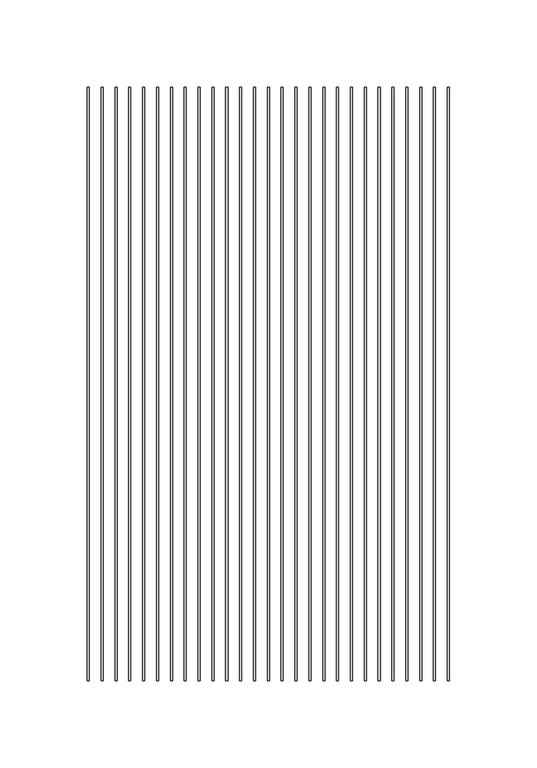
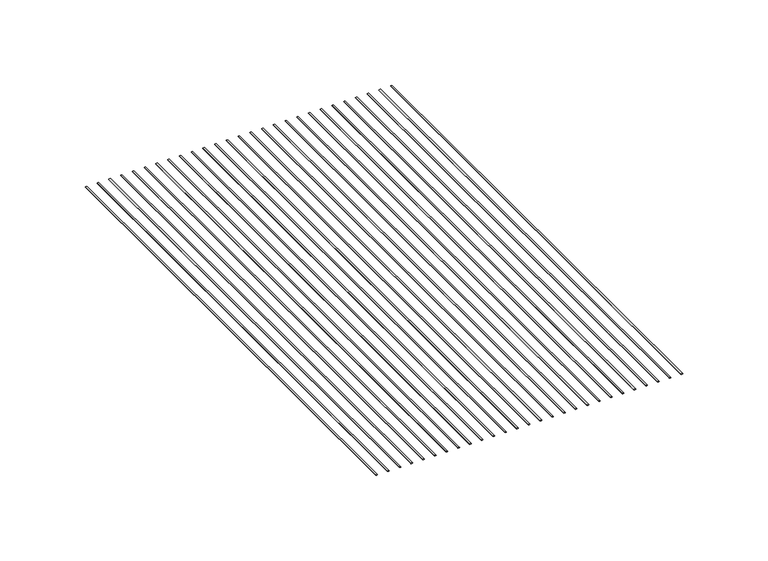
"""IFC4 building model written with IfcOpenShell, lengths in millimetres: proxy geometry, CRAi Generic Model Mesh Piece Face Based : Wider Mesh."""

from ifc_helpers import new_model, si_unit, point, frame, origin, place, context, project, spatial, ellipse_curve, trimmed, source, transform, mapped, element, save
from ifc_brep_helpers import plane_surface, extruded_surface, advanced_brep


def generic_models_feffb954(model_context):
    return source(origin(), model_context, "Body", "AdvancedBrep", [
        advanced_brep(
        [(4.9609375, -169.8625, -2.5796875), (6.1515625, -169.8625, -2.5796875), (4.9609375, 169.8625, -2.5796875), (6.1515625, 169.8625, -2.5796875)],
        [
            (0, 1, ellipse_curve(frame((5.55625, -169.8625, -2.5796875), z_axis=(0.0, -1.0, 0.0), x_axis=(1.0, 0.0, 0.0)), 0.5953125, 0.1984375)),
            (1, 0, ellipse_curve(frame((5.55625, -169.8625, -2.5796875), z_axis=(0.0, -1.0, 0.0), x_axis=(1.0, 0.0, 0.0)), 0.5953125, 0.1984375)),
            (2, 3, ellipse_curve(frame((5.55625, 169.8625, -2.5796875), z_axis=(0.0, 1.0, 0.0), x_axis=(1.0, 0.0, 0.0)), 0.5953125, 0.1984375)),
            (3, 2, ellipse_curve(frame((5.55625, 169.8625, -2.5796875), z_axis=(0.0, 1.0, 0.0), x_axis=(1.0, 0.0, 0.0)), 0.5953125, 0.1984375)),
            (0, 2),
            (3, 1),
        ],
        [
            plane_surface(frame((5.55625, -169.8625, -2.5796875), z_axis=(0.0, -1.0, 0.0), x_axis=(0.0, 0.0, 1.0))),
            plane_surface(frame((5.55625, 169.8625, -2.5796875), z_axis=(0.0, 1.0, 0.0), x_axis=(0.0, 0.0, 1.0))),
            extruded_surface(trimmed(ellipse_curve(frame((5.55625, 169.8625, -2.5796875), z_axis=(0.0, -1.0, 0.0), x_axis=(1.0, 0.0, 0.0)), 0.5953125, 0.1984375), [point((4.9609375, 169.8625, -2.5796875))], [point((6.1515625, 169.8625, -2.5796875))], True, "CARTESIAN"), (0.0, -339.725, 0.0), 339.725),
            extruded_surface(trimmed(ellipse_curve(frame((5.55625, 169.8625, -2.5796875), z_axis=(0.0, -1.0, 0.0), x_axis=(1.0, 0.0, 0.0)), 0.5953125, 0.1984375), [point((6.1515625, 169.8625, -2.5796875))], [point((4.9609375, 169.8625, -2.5796875))], True, "CARTESIAN"), (0.0, -339.725, 0.0), 339.725),
        ],
        [
            (0, [[1, 2]]),
            (1, [[3, 4]]),
            (2, [[-1, 5, -4, 6]]),
            (3, [[-2, -6, -3, -5]]),
        ],
    ),
        advanced_brep(
        [(12.8984375, -169.8625, -2.5796875), (14.0890625, -169.8625, -2.5796875), (12.8984375, 169.8625, -2.5796875), (14.0890625, 169.8625, -2.5796875)],
        [
            (0, 1, ellipse_curve(frame((13.49375, -169.8625, -2.5796875), z_axis=(0.0, -1.0, 0.0), x_axis=(1.0, 0.0, 0.0)), 0.5953125, 0.1984375)),
            (1, 0, ellipse_curve(frame((13.49375, -169.8625, -2.5796875), z_axis=(0.0, -1.0, 0.0), x_axis=(1.0, 0.0, 0.0)), 0.5953125, 0.1984375)),
            (2, 3, ellipse_curve(frame((13.49375, 169.8625, -2.5796875), z_axis=(0.0, 1.0, 0.0), x_axis=(1.0, 0.0, 0.0)), 0.5953125, 0.1984375)),
            (3, 2, ellipse_curve(frame((13.49375, 169.8625, -2.5796875), z_axis=(0.0, 1.0, 0.0), x_axis=(1.0, 0.0, 0.0)), 0.5953125, 0.1984375)),
            (0, 2),
            (3, 1),
        ],
        [
            plane_surface(frame((13.49375, -169.8625, -2.5796875), z_axis=(0.0, -1.0, 0.0), x_axis=(0.0, 0.0, 1.0))),
            plane_surface(frame((13.49375, 169.8625, -2.5796875), z_axis=(0.0, 1.0, 0.0), x_axis=(0.0, 0.0, 1.0))),
            extruded_surface(trimmed(ellipse_curve(frame((13.49375, 169.8625, -2.5796875), z_axis=(0.0, -1.0, 0.0), x_axis=(1.0, 0.0, 0.0)), 0.5953125, 0.1984375), [point((12.8984375, 169.8625, -2.5796875))], [point((14.0890625, 169.8625, -2.5796875))], True, "CARTESIAN"), (0.0, -339.725, 0.0), 339.725),
            extruded_surface(trimmed(ellipse_curve(frame((13.49375, 169.8625, -2.5796875), z_axis=(0.0, -1.0, 0.0), x_axis=(1.0, 0.0, 0.0)), 0.5953125, 0.1984375), [point((14.0890625, 169.8625, -2.5796875))], [point((12.8984375, 169.8625, -2.5796875))], True, "CARTESIAN"), (0.0, -339.725, 0.0), 339.725),
        ],
        [
            (0, [[1, 2]]),
            (1, [[3, 4]]),
            (2, [[-1, 5, -4, 6]]),
            (3, [[-2, -6, -3, -5]]),
        ],
    ),
        advanced_brep(
        [(20.8359375, -169.8625, -2.5796875), (22.0265625, -169.8625, -2.5796875), (20.8359375, 169.8625, -2.5796875), (22.0265625, 169.8625, -2.5796875)],
        [
            (0, 1, ellipse_curve(frame((21.43125, -169.8625, -2.5796875), z_axis=(0.0, -1.0, 0.0), x_axis=(1.0, 0.0, 0.0)), 0.5953125, 0.1984375)),
            (1, 0, ellipse_curve(frame((21.43125, -169.8625, -2.5796875), z_axis=(0.0, -1.0, 0.0), x_axis=(1.0, 0.0, 0.0)), 0.5953125, 0.1984375)),
            (2, 3, ellipse_curve(frame((21.43125, 169.8625, -2.5796875), z_axis=(0.0, 1.0, 0.0), x_axis=(1.0, 0.0, 0.0)), 0.5953125, 0.1984375)),
            (3, 2, ellipse_curve(frame((21.43125, 169.8625, -2.5796875), z_axis=(0.0, 1.0, 0.0), x_axis=(1.0, 0.0, 0.0)), 0.5953125, 0.1984375)),
            (0, 2),
            (3, 1),
        ],
        [
            plane_surface(frame((21.43125, -169.8625, -2.5796875), z_axis=(0.0, -1.0, 0.0), x_axis=(0.0, 0.0, 1.0))),
            plane_surface(frame((21.43125, 169.8625, -2.5796875), z_axis=(0.0, 1.0, 0.0), x_axis=(0.0, 0.0, 1.0))),
            extruded_surface(trimmed(ellipse_curve(frame((21.43125, 169.8625, -2.5796875), z_axis=(0.0, -1.0, 0.0), x_axis=(1.0, 0.0, 0.0)), 0.5953125, 0.1984375), [point((20.8359375, 169.8625, -2.5796875))], [point((22.0265625, 169.8625, -2.5796875))], True, "CARTESIAN"), (0.0, -339.725, 0.0), 339.725),
            extruded_surface(trimmed(ellipse_curve(frame((21.43125, 169.8625, -2.5796875), z_axis=(0.0, -1.0, 0.0), x_axis=(1.0, 0.0, 0.0)), 0.5953125, 0.1984375), [point((22.0265625, 169.8625, -2.5796875))], [point((20.8359375, 169.8625, -2.5796875))], True, "CARTESIAN"), (0.0, -339.725, 0.0), 339.725),
        ],
        [
            (0, [[1, 2]]),
            (1, [[3, 4]]),
            (2, [[-1, 5, -4, 6]]),
            (3, [[-2, -6, -3, -5]]),
        ],
    ),
        advanced_brep(
        [(28.7734375, -169.8625, -2.5796875), (29.9640625, -169.8625, -2.5796875), (28.7734375, 169.8625, -2.5796875), (29.9640625, 169.8625, -2.5796875)],
        [
            (0, 1, ellipse_curve(frame((29.36875, -169.8625, -2.5796875), z_axis=(0.0, -1.0, 0.0), x_axis=(1.0, 0.0, 0.0)), 0.5953125, 0.1984375)),
            (1, 0, ellipse_curve(frame((29.36875, -169.8625, -2.5796875), z_axis=(0.0, -1.0, 0.0), x_axis=(1.0, 0.0, 0.0)), 0.5953125, 0.1984375)),
            (2, 3, ellipse_curve(frame((29.36875, 169.8625, -2.5796875), z_axis=(0.0, 1.0, 0.0), x_axis=(1.0, 0.0, 0.0)), 0.5953125, 0.1984375)),
            (3, 2, ellipse_curve(frame((29.36875, 169.8625, -2.5796875), z_axis=(0.0, 1.0, 0.0), x_axis=(1.0, 0.0, 0.0)), 0.5953125, 0.1984375)),
            (0, 2),
            (3, 1),
        ],
        [
            plane_surface(frame((29.36875, -169.8625, -2.5796875), z_axis=(0.0, -1.0, 0.0), x_axis=(0.0, 0.0, 1.0))),
            plane_surface(frame((29.36875, 169.8625, -2.5796875), z_axis=(0.0, 1.0, 0.0), x_axis=(0.0, 0.0, 1.0))),
            extruded_surface(trimmed(ellipse_curve(frame((29.36875, 169.8625, -2.5796875), z_axis=(0.0, -1.0, 0.0), x_axis=(1.0, 0.0, 0.0)), 0.5953125, 0.1984375), [point((28.7734375, 169.8625, -2.5796875))], [point((29.9640625, 169.8625, -2.5796875))], True, "CARTESIAN"), (0.0, -339.725, 0.0), 339.725),
            extruded_surface(trimmed(ellipse_curve(frame((29.36875, 169.8625, -2.5796875), z_axis=(0.0, -1.0, 0.0), x_axis=(1.0, 0.0, 0.0)), 0.5953125, 0.1984375), [point((29.9640625, 169.8625, -2.5796875))], [point((28.7734375, 169.8625, -2.5796875))], True, "CARTESIAN"), (0.0, -339.725, 0.0), 339.725),
        ],
        [
            (0, [[1, 2]]),
            (1, [[3, 4]]),
            (2, [[-1, 5, -4, 6]]),
            (3, [[-2, -6, -3, -5]]),
        ],
    ),
        advanced_brep(
        [(36.7109375, -169.8625, -2.5796875), (37.9015625, -169.8625, -2.5796875), (36.7109375, 169.8625, -2.5796875), (37.9015625, 169.8625, -2.5796875)],
        [
            (0, 1, ellipse_curve(frame((37.30625, -169.8625, -2.5796875), z_axis=(0.0, -1.0, 0.0), x_axis=(1.0, 0.0, 0.0)), 0.5953125, 0.1984375)),
            (1, 0, ellipse_curve(frame((37.30625, -169.8625, -2.5796875), z_axis=(0.0, -1.0, 0.0), x_axis=(1.0, 0.0, 0.0)), 0.5953125, 0.1984375)),
            (2, 3, ellipse_curve(frame((37.30625, 169.8625, -2.5796875), z_axis=(0.0, 1.0, 0.0), x_axis=(1.0, 0.0, 0.0)), 0.5953125, 0.1984375)),
            (3, 2, ellipse_curve(frame((37.30625, 169.8625, -2.5796875), z_axis=(0.0, 1.0, 0.0), x_axis=(1.0, 0.0, 0.0)), 0.5953125, 0.1984375)),
            (0, 2),
            (3, 1),
        ],
        [
            plane_surface(frame((37.30625, -169.8625, -2.5796875), z_axis=(0.0, -1.0, 0.0), x_axis=(0.0, 0.0, 1.0))),
            plane_surface(frame((37.30625, 169.8625, -2.5796875), z_axis=(0.0, 1.0, 0.0), x_axis=(0.0, 0.0, 1.0))),
            extruded_surface(trimmed(ellipse_curve(frame((37.30625, 169.8625, -2.5796875), z_axis=(0.0, -1.0, 0.0), x_axis=(1.0, 0.0, 0.0)), 0.5953125, 0.1984375), [point((36.7109375, 169.8625, -2.5796875))], [point((37.9015625, 169.8625, -2.5796875))], True, "CARTESIAN"), (0.0, -339.725, 0.0), 339.725),
            extruded_surface(trimmed(ellipse_curve(frame((37.30625, 169.8625, -2.5796875), z_axis=(0.0, -1.0, 0.0), x_axis=(1.0, 0.0, 0.0)), 0.5953125, 0.1984375), [point((37.9015625, 169.8625, -2.5796875))], [point((36.7109375, 169.8625, -2.5796875))], True, "CARTESIAN"), (0.0, -339.725, 0.0), 339.725),
        ],
        [
            (0, [[1, 2]]),
            (1, [[3, 4]]),
            (2, [[-1, 5, -4, 6]]),
            (3, [[-2, -6, -3, -5]]),
        ],
    ),
        advanced_brep(
        [(44.6484375, -169.8625, -2.5796875), (45.8390625, -169.8625, -2.5796875), (44.6484375, 169.8625, -2.5796875), (45.8390625, 169.8625, -2.5796875)],
        [
            (0, 1, ellipse_curve(frame((45.24375, -169.8625, -2.5796875), z_axis=(0.0, -1.0, 0.0), x_axis=(1.0, 0.0, 0.0)), 0.5953125, 0.1984375)),
            (1, 0, ellipse_curve(frame((45.24375, -169.8625, -2.5796875), z_axis=(0.0, -1.0, 0.0), x_axis=(1.0, 0.0, 0.0)), 0.5953125, 0.1984375)),
            (2, 3, ellipse_curve(frame((45.24375, 169.8625, -2.5796875), z_axis=(0.0, 1.0, 0.0), x_axis=(1.0, 0.0, 0.0)), 0.5953125, 0.1984375)),
            (3, 2, ellipse_curve(frame((45.24375, 169.8625, -2.5796875), z_axis=(0.0, 1.0, 0.0), x_axis=(1.0, 0.0, 0.0)), 0.5953125, 0.1984375)),
            (0, 2),
            (3, 1),
        ],
        [
            plane_surface(frame((45.24375, -169.8625, -2.5796875), z_axis=(0.0, -1.0, 0.0), x_axis=(0.0, 0.0, 1.0))),
            plane_surface(frame((45.24375, 169.8625, -2.5796875), z_axis=(0.0, 1.0, 0.0), x_axis=(0.0, 0.0, 1.0))),
            extruded_surface(trimmed(ellipse_curve(frame((45.24375, 169.8625, -2.5796875), z_axis=(0.0, -1.0, 0.0), x_axis=(1.0, 0.0, 0.0)), 0.5953125, 0.1984375), [point((44.6484375, 169.8625, -2.5796875))], [point((45.8390625, 169.8625, -2.5796875))], True, "CARTESIAN"), (0.0, -339.725, 0.0), 339.725),
            extruded_surface(trimmed(ellipse_curve(frame((45.24375, 169.8625, -2.5796875), z_axis=(0.0, -1.0, 0.0), x_axis=(1.0, 0.0, 0.0)), 0.5953125, 0.1984375), [point((45.8390625, 169.8625, -2.5796875))], [point((44.6484375, 169.8625, -2.5796875))], True, "CARTESIAN"), (0.0, -339.725, 0.0), 339.725),
        ],
        [
            (0, [[1, 2]]),
            (1, [[3, 4]]),
            (2, [[-1, 5, -4, 6]]),
            (3, [[-2, -6, -3, -5]]),
        ],
    ),
        advanced_brep(
        [(52.5859375, -169.8625, -2.5796875), (53.7765625, -169.8625, -2.5796875), (52.5859375, 169.8625, -2.5796875), (53.7765625, 169.8625, -2.5796875)],
        [
            (0, 1, ellipse_curve(frame((53.18125, -169.8625, -2.5796875), z_axis=(0.0, -1.0, 0.0), x_axis=(1.0, 0.0, 0.0)), 0.5953125, 0.1984375)),
            (1, 0, ellipse_curve(frame((53.18125, -169.8625, -2.5796875), z_axis=(0.0, -1.0, 0.0), x_axis=(1.0, 0.0, 0.0)), 0.5953125, 0.1984375)),
            (2, 3, ellipse_curve(frame((53.18125, 169.8625, -2.5796875), z_axis=(0.0, 1.0, 0.0), x_axis=(1.0, 0.0, 0.0)), 0.5953125, 0.1984375)),
            (3, 2, ellipse_curve(frame((53.18125, 169.8625, -2.5796875), z_axis=(0.0, 1.0, 0.0), x_axis=(1.0, 0.0, 0.0)), 0.5953125, 0.1984375)),
            (0, 2),
            (3, 1),
        ],
        [
            plane_surface(frame((53.18125, -169.8625, -2.5796875), z_axis=(0.0, -1.0, 0.0), x_axis=(0.0, 0.0, 1.0))),
            plane_surface(frame((53.18125, 169.8625, -2.5796875), z_axis=(0.0, 1.0, 0.0), x_axis=(0.0, 0.0, 1.0))),
            extruded_surface(trimmed(ellipse_curve(frame((53.18125, 169.8625, -2.5796875), z_axis=(0.0, -1.0, 0.0), x_axis=(1.0, 0.0, 0.0)), 0.5953125, 0.1984375), [point((52.5859375, 169.8625, -2.5796875))], [point((53.7765625, 169.8625, -2.5796875))], True, "CARTESIAN"), (0.0, -339.725, 0.0), 339.725),
            extruded_surface(trimmed(ellipse_curve(frame((53.18125, 169.8625, -2.5796875), z_axis=(0.0, -1.0, 0.0), x_axis=(1.0, 0.0, 0.0)), 0.5953125, 0.1984375), [point((53.7765625, 169.8625, -2.5796875))], [point((52.5859375, 169.8625, -2.5796875))], True, "CARTESIAN"), (0.0, -339.725, 0.0), 339.725),
        ],
        [
            (0, [[1, 2]]),
            (1, [[3, 4]]),
            (2, [[-1, 5, -4, 6]]),
            (3, [[-2, -6, -3, -5]]),
        ],
    ),
        advanced_brep(
        [(60.5234375, -169.8625, -2.5796875), (61.7140625, -169.8625, -2.5796875), (60.5234375, 169.8625, -2.5796875), (61.7140625, 169.8625, -2.5796875)],
        [
            (0, 1, ellipse_curve(frame((61.11875, -169.8625, -2.5796875), z_axis=(0.0, -1.0, 0.0), x_axis=(1.0, 0.0, 0.0)), 0.5953125, 0.1984375)),
            (1, 0, ellipse_curve(frame((61.11875, -169.8625, -2.5796875), z_axis=(0.0, -1.0, 0.0), x_axis=(1.0, 0.0, 0.0)), 0.5953125, 0.1984375)),
            (2, 3, ellipse_curve(frame((61.11875, 169.8625, -2.5796875), z_axis=(0.0, 1.0, 0.0), x_axis=(1.0, 0.0, 0.0)), 0.5953125, 0.1984375)),
            (3, 2, ellipse_curve(frame((61.11875, 169.8625, -2.5796875), z_axis=(0.0, 1.0, 0.0), x_axis=(1.0, 0.0, 0.0)), 0.5953125, 0.1984375)),
            (0, 2),
            (3, 1),
        ],
        [
            plane_surface(frame((61.11875, -169.8625, -2.5796875), z_axis=(0.0, -1.0, 0.0), x_axis=(0.0, 0.0, 1.0))),
            plane_surface(frame((61.11875, 169.8625, -2.5796875), z_axis=(0.0, 1.0, 0.0), x_axis=(0.0, 0.0, 1.0))),
            extruded_surface(trimmed(ellipse_curve(frame((61.11875, 169.8625, -2.5796875), z_axis=(0.0, -1.0, 0.0), x_axis=(1.0, 0.0, 0.0)), 0.5953125, 0.1984375), [point((60.5234375, 169.8625, -2.5796875))], [point((61.7140625, 169.8625, -2.5796875))], True, "CARTESIAN"), (0.0, -339.725, 0.0), 339.725),
            extruded_surface(trimmed(ellipse_curve(frame((61.11875, 169.8625, -2.5796875), z_axis=(0.0, -1.0, 0.0), x_axis=(1.0, 0.0, 0.0)), 0.5953125, 0.1984375), [point((61.7140625, 169.8625, -2.5796875))], [point((60.5234375, 169.8625, -2.5796875))], True, "CARTESIAN"), (0.0, -339.725, 0.0), 339.725),
        ],
        [
            (0, [[1, 2]]),
            (1, [[3, 4]]),
            (2, [[-1, 5, -4, 6]]),
            (3, [[-2, -6, -3, -5]]),
        ],
    ),
        advanced_brep(
        [(68.4609375, -169.8625, -2.5796875), (69.6515625, -169.8625, -2.5796875), (68.4609375, 169.8625, -2.5796875), (69.6515625, 169.8625, -2.5796875)],
        [
            (0, 1, ellipse_curve(frame((69.05625, -169.8625, -2.5796875), z_axis=(0.0, -1.0, 0.0), x_axis=(1.0, 0.0, 0.0)), 0.5953125, 0.1984375)),
            (1, 0, ellipse_curve(frame((69.05625, -169.8625, -2.5796875), z_axis=(0.0, -1.0, 0.0), x_axis=(1.0, 0.0, 0.0)), 0.5953125, 0.1984375)),
            (2, 3, ellipse_curve(frame((69.05625, 169.8625, -2.5796875), z_axis=(0.0, 1.0, 0.0), x_axis=(1.0, 0.0, 0.0)), 0.5953125, 0.1984375)),
            (3, 2, ellipse_curve(frame((69.05625, 169.8625, -2.5796875), z_axis=(0.0, 1.0, 0.0), x_axis=(1.0, 0.0, 0.0)), 0.5953125, 0.1984375)),
            (0, 2),
            (3, 1),
        ],
        [
            plane_surface(frame((69.05625, -169.8625, -2.5796875), z_axis=(0.0, -1.0, 0.0), x_axis=(0.0, 0.0, 1.0))),
            plane_surface(frame((69.05625, 169.8625, -2.5796875), z_axis=(0.0, 1.0, 0.0), x_axis=(0.0, 0.0, 1.0))),
            extruded_surface(trimmed(ellipse_curve(frame((69.05625, 169.8625, -2.5796875), z_axis=(0.0, -1.0, 0.0), x_axis=(1.0, 0.0, 0.0)), 0.5953125, 0.1984375), [point((68.4609375, 169.8625, -2.5796875))], [point((69.6515625, 169.8625, -2.5796875))], True, "CARTESIAN"), (0.0, -339.725, 0.0), 339.725),
            extruded_surface(trimmed(ellipse_curve(frame((69.05625, 169.8625, -2.5796875), z_axis=(0.0, -1.0, 0.0), x_axis=(1.0, 0.0, 0.0)), 0.5953125, 0.1984375), [point((69.6515625, 169.8625, -2.5796875))], [point((68.4609375, 169.8625, -2.5796875))], True, "CARTESIAN"), (0.0, -339.725, 0.0), 339.725),
        ],
        [
            (0, [[1, 2]]),
            (1, [[3, 4]]),
            (2, [[-1, 5, -4, 6]]),
            (3, [[-2, -6, -3, -5]]),
        ],
    ),
        advanced_brep(
        [(76.3984375, -169.8625, -2.5796875), (77.5890625, -169.8625, -2.5796875), (76.3984375, 169.8625, -2.5796875), (77.5890625, 169.8625, -2.5796875)],
        [
            (0, 1, ellipse_curve(frame((76.99375, -169.8625, -2.5796875), z_axis=(0.0, -1.0, 0.0), x_axis=(1.0, 0.0, 0.0)), 0.5953125, 0.1984375)),
            (1, 0, ellipse_curve(frame((76.99375, -169.8625, -2.5796875), z_axis=(0.0, -1.0, 0.0), x_axis=(1.0, 0.0, 0.0)), 0.5953125, 0.1984375)),
            (2, 3, ellipse_curve(frame((76.99375, 169.8625, -2.5796875), z_axis=(0.0, 1.0, 0.0), x_axis=(1.0, 0.0, 0.0)), 0.5953125, 0.1984375)),
            (3, 2, ellipse_curve(frame((76.99375, 169.8625, -2.5796875), z_axis=(0.0, 1.0, 0.0), x_axis=(1.0, 0.0, 0.0)), 0.5953125, 0.1984375)),
            (0, 2),
            (3, 1),
        ],
        [
            plane_surface(frame((76.99375, -169.8625, -2.5796875), z_axis=(0.0, -1.0, 0.0), x_axis=(0.0, 0.0, 1.0))),
            plane_surface(frame((76.99375, 169.8625, -2.5796875), z_axis=(0.0, 1.0, 0.0), x_axis=(0.0, 0.0, 1.0))),
            extruded_surface(trimmed(ellipse_curve(frame((76.99375, 169.8625, -2.5796875), z_axis=(0.0, -1.0, 0.0), x_axis=(1.0, 0.0, 0.0)), 0.5953125, 0.1984375), [point((76.3984375, 169.8625, -2.5796875))], [point((77.5890625, 169.8625, -2.5796875))], True, "CARTESIAN"), (0.0, -339.725, 0.0), 339.725),
            extruded_surface(trimmed(ellipse_curve(frame((76.99375, 169.8625, -2.5796875), z_axis=(0.0, -1.0, 0.0), x_axis=(1.0, 0.0, 0.0)), 0.5953125, 0.1984375), [point((77.5890625, 169.8625, -2.5796875))], [point((76.3984375, 169.8625, -2.5796875))], True, "CARTESIAN"), (0.0, -339.725, 0.0), 339.725),
        ],
        [
            (0, [[1, 2]]),
            (1, [[3, 4]]),
            (2, [[-1, 5, -4, 6]]),
            (3, [[-2, -6, -3, -5]]),
        ],
    ),
        advanced_brep(
        [(84.3359375, -169.8625, -2.5796875), (85.5265625, -169.8625, -2.5796875), (84.3359375, 169.8625, -2.5796875), (85.5265625, 169.8625, -2.5796875)],
        [
            (0, 1, ellipse_curve(frame((84.93125, -169.8625, -2.5796875), z_axis=(0.0, -1.0, 0.0), x_axis=(1.0, 0.0, 0.0)), 0.5953125, 0.1984375)),
            (1, 0, ellipse_curve(frame((84.93125, -169.8625, -2.5796875), z_axis=(0.0, -1.0, 0.0), x_axis=(1.0, 0.0, 0.0)), 0.5953125, 0.1984375)),
            (2, 3, ellipse_curve(frame((84.93125, 169.8625, -2.5796875), z_axis=(0.0, 1.0, 0.0), x_axis=(1.0, 0.0, 0.0)), 0.5953125, 0.1984375)),
            (3, 2, ellipse_curve(frame((84.93125, 169.8625, -2.5796875), z_axis=(0.0, 1.0, 0.0), x_axis=(1.0, 0.0, 0.0)), 0.5953125, 0.1984375)),
            (0, 2),
            (3, 1),
        ],
        [
            plane_surface(frame((84.93125, -169.8625, -2.5796875), z_axis=(0.0, -1.0, 0.0), x_axis=(0.0, 0.0, 1.0))),
            plane_surface(frame((84.93125, 169.8625, -2.5796875), z_axis=(0.0, 1.0, 0.0), x_axis=(0.0, 0.0, 1.0))),
            extruded_surface(trimmed(ellipse_curve(frame((84.93125, 169.8625, -2.5796875), z_axis=(0.0, -1.0, 0.0), x_axis=(1.0, 0.0, 0.0)), 0.5953125, 0.1984375), [point((84.3359375, 169.8625, -2.5796875))], [point((85.5265625, 169.8625, -2.5796875))], True, "CARTESIAN"), (0.0, -339.725, 0.0), 339.725),
            extruded_surface(trimmed(ellipse_curve(frame((84.93125, 169.8625, -2.5796875), z_axis=(0.0, -1.0, 0.0), x_axis=(1.0, 0.0, 0.0)), 0.5953125, 0.1984375), [point((85.5265625, 169.8625, -2.5796875))], [point((84.3359375, 169.8625, -2.5796875))], True, "CARTESIAN"), (0.0, -339.725, 0.0), 339.725),
        ],
        [
            (0, [[1, 2]]),
            (1, [[3, 4]]),
            (2, [[-1, 5, -4, 6]]),
            (3, [[-2, -6, -3, -5]]),
        ],
    ),
        advanced_brep(
        [(92.2734375, -169.8625, -2.5796875), (93.4640625, -169.8625, -2.5796875), (92.2734375, 169.8625, -2.5796875), (93.4640625, 169.8625, -2.5796875)],
        [
            (0, 1, ellipse_curve(frame((92.86875, -169.8625, -2.5796875), z_axis=(0.0, -1.0, 0.0), x_axis=(1.0, 0.0, 0.0)), 0.5953125, 0.1984375)),
            (1, 0, ellipse_curve(frame((92.86875, -169.8625, -2.5796875), z_axis=(0.0, -1.0, 0.0), x_axis=(1.0, 0.0, 0.0)), 0.5953125, 0.1984375)),
            (2, 3, ellipse_curve(frame((92.86875, 169.8625, -2.5796875), z_axis=(0.0, 1.0, 0.0), x_axis=(1.0, 0.0, 0.0)), 0.5953125, 0.1984375)),
            (3, 2, ellipse_curve(frame((92.86875, 169.8625, -2.5796875), z_axis=(0.0, 1.0, 0.0), x_axis=(1.0, 0.0, 0.0)), 0.5953125, 0.1984375)),
            (0, 2),
            (3, 1),
        ],
        [
            plane_surface(frame((92.86875, -169.8625, -2.5796875), z_axis=(0.0, -1.0, 0.0), x_axis=(0.0, 0.0, 1.0))),
            plane_surface(frame((92.86875, 169.8625, -2.5796875), z_axis=(0.0, 1.0, 0.0), x_axis=(0.0, 0.0, 1.0))),
            extruded_surface(trimmed(ellipse_curve(frame((92.86875, 169.8625, -2.5796875), z_axis=(0.0, -1.0, 0.0), x_axis=(1.0, 0.0, 0.0)), 0.5953125, 0.1984375), [point((92.2734375, 169.8625, -2.5796875))], [point((93.4640625, 169.8625, -2.5796875))], True, "CARTESIAN"), (0.0, -339.725, 0.0), 339.725),
            extruded_surface(trimmed(ellipse_curve(frame((92.86875, 169.8625, -2.5796875), z_axis=(0.0, -1.0, 0.0), x_axis=(1.0, 0.0, 0.0)), 0.5953125, 0.1984375), [point((93.4640625, 169.8625, -2.5796875))], [point((92.2734375, 169.8625, -2.5796875))], True, "CARTESIAN"), (0.0, -339.725, 0.0), 339.725),
        ],
        [
            (0, [[1, 2]]),
            (1, [[3, 4]]),
            (2, [[-1, 5, -4, 6]]),
            (3, [[-2, -6, -3, -5]]),
        ],
    ),
        advanced_brep(
        [(100.2109375, -169.8625, -2.5796875), (101.4015625, -169.8625, -2.5796875), (100.2109375, 169.8625, -2.5796875), (101.4015625, 169.8625, -2.5796875)],
        [
            (0, 1, ellipse_curve(frame((100.80625, -169.8625, -2.5796875), z_axis=(0.0, -1.0, 0.0), x_axis=(1.0, 0.0, 0.0)), 0.5953125, 0.1984375)),
            (1, 0, ellipse_curve(frame((100.80625, -169.8625, -2.5796875), z_axis=(0.0, -1.0, 0.0), x_axis=(1.0, 0.0, 0.0)), 0.5953125, 0.1984375)),
            (2, 3, ellipse_curve(frame((100.80625, 169.8625, -2.5796875), z_axis=(0.0, 1.0, 0.0), x_axis=(1.0, 0.0, 0.0)), 0.5953125, 0.1984375)),
            (3, 2, ellipse_curve(frame((100.80625, 169.8625, -2.5796875), z_axis=(0.0, 1.0, 0.0), x_axis=(1.0, 0.0, 0.0)), 0.5953125, 0.1984375)),
            (0, 2),
            (3, 1),
        ],
        [
            plane_surface(frame((100.80625, -169.8625, -2.5796875), z_axis=(0.0, -1.0, 0.0), x_axis=(0.0, 0.0, 1.0))),
            plane_surface(frame((100.80625, 169.8625, -2.5796875), z_axis=(0.0, 1.0, 0.0), x_axis=(0.0, 0.0, 1.0))),
            extruded_surface(trimmed(ellipse_curve(frame((100.80625, 169.8625, -2.5796875), z_axis=(0.0, -1.0, 0.0), x_axis=(1.0, 0.0, 0.0)), 0.5953125, 0.1984375), [point((100.2109375, 169.8625, -2.5796875))], [point((101.4015625, 169.8625, -2.5796875))], True, "CARTESIAN"), (0.0, -339.725, 0.0), 339.725),
            extruded_surface(trimmed(ellipse_curve(frame((100.80625, 169.8625, -2.5796875), z_axis=(0.0, -1.0, 0.0), x_axis=(1.0, 0.0, 0.0)), 0.5953125, 0.1984375), [point((101.4015625, 169.8625, -2.5796875))], [point((100.2109375, 169.8625, -2.5796875))], True, "CARTESIAN"), (0.0, -339.725, 0.0), 339.725),
        ],
        [
            (0, [[1, 2]]),
            (1, [[3, 4]]),
            (2, [[-1, 5, -4, 6]]),
            (3, [[-2, -6, -3, -5]]),
        ],
    ),
        advanced_brep(
        [(108.1484375, -169.8625, -2.5796875), (109.3390625, -169.8625, -2.5796875), (108.1484375, 169.8625, -2.5796875), (109.3390625, 169.8625, -2.5796875)],
        [
            (0, 1, ellipse_curve(frame((108.74375, -169.8625, -2.5796875), z_axis=(0.0, -1.0, 0.0), x_axis=(1.0, 0.0, 0.0)), 0.5953125, 0.1984375)),
            (1, 0, ellipse_curve(frame((108.74375, -169.8625, -2.5796875), z_axis=(0.0, -1.0, 0.0), x_axis=(1.0, 0.0, 0.0)), 0.5953125, 0.1984375)),
            (2, 3, ellipse_curve(frame((108.74375, 169.8625, -2.5796875), z_axis=(0.0, 1.0, 0.0), x_axis=(1.0, 0.0, 0.0)), 0.5953125, 0.1984375)),
            (3, 2, ellipse_curve(frame((108.74375, 169.8625, -2.5796875), z_axis=(0.0, 1.0, 0.0), x_axis=(1.0, 0.0, 0.0)), 0.5953125, 0.1984375)),
            (0, 2),
            (3, 1),
        ],
        [
            plane_surface(frame((108.74375, -169.8625, -2.5796875), z_axis=(0.0, -1.0, 0.0), x_axis=(0.0, 0.0, 1.0))),
            plane_surface(frame((108.74375, 169.8625, -2.5796875), z_axis=(0.0, 1.0, 0.0), x_axis=(0.0, 0.0, 1.0))),
            extruded_surface(trimmed(ellipse_curve(frame((108.74375, 169.8625, -2.5796875), z_axis=(0.0, -1.0, 0.0), x_axis=(1.0, 0.0, 0.0)), 0.5953125, 0.1984375), [point((108.1484375, 169.8625, -2.5796875))], [point((109.3390625, 169.8625, -2.5796875))], True, "CARTESIAN"), (0.0, -339.725, 0.0), 339.725),
            extruded_surface(trimmed(ellipse_curve(frame((108.74375, 169.8625, -2.5796875), z_axis=(0.0, -1.0, 0.0), x_axis=(1.0, 0.0, 0.0)), 0.5953125, 0.1984375), [point((109.3390625, 169.8625, -2.5796875))], [point((108.1484375, 169.8625, -2.5796875))], True, "CARTESIAN"), (0.0, -339.725, 0.0), 339.725),
        ],
        [
            (0, [[1, 2]]),
            (1, [[3, 4]]),
            (2, [[-1, 5, -4, 6]]),
            (3, [[-2, -6, -3, -5]]),
        ],
    ),
        advanced_brep(
        [(116.0859375, -169.8625, -2.5796875), (117.2765625, -169.8625, -2.5796875), (116.0859375, 169.8625, -2.5796875), (117.2765625, 169.8625, -2.5796875)],
        [
            (0, 1, ellipse_curve(frame((116.68125, -169.8625, -2.5796875), z_axis=(0.0, -1.0, 0.0), x_axis=(1.0, 0.0, 0.0)), 0.5953125, 0.1984375)),
            (1, 0, ellipse_curve(frame((116.68125, -169.8625, -2.5796875), z_axis=(0.0, -1.0, 0.0), x_axis=(1.0, 0.0, 0.0)), 0.5953125, 0.1984375)),
            (2, 3, ellipse_curve(frame((116.68125, 169.8625, -2.5796875), z_axis=(0.0, 1.0, 0.0), x_axis=(1.0, 0.0, 0.0)), 0.5953125, 0.1984375)),
            (3, 2, ellipse_curve(frame((116.68125, 169.8625, -2.5796875), z_axis=(0.0, 1.0, 0.0), x_axis=(1.0, 0.0, 0.0)), 0.5953125, 0.1984375)),
            (0, 2),
            (3, 1),
        ],
        [
            plane_surface(frame((116.68125, -169.8625, -2.5796875), z_axis=(0.0, -1.0, 0.0), x_axis=(0.0, 0.0, 1.0))),
            plane_surface(frame((116.68125, 169.8625, -2.5796875), z_axis=(0.0, 1.0, 0.0), x_axis=(0.0, 0.0, 1.0))),
            extruded_surface(trimmed(ellipse_curve(frame((116.68125, 169.8625, -2.5796875), z_axis=(0.0, -1.0, 0.0), x_axis=(1.0, 0.0, 0.0)), 0.5953125, 0.1984375), [point((116.0859375, 169.8625, -2.5796875))], [point((117.2765625, 169.8625, -2.5796875))], True, "CARTESIAN"), (0.0, -339.725, 0.0), 339.725),
            extruded_surface(trimmed(ellipse_curve(frame((116.68125, 169.8625, -2.5796875), z_axis=(0.0, -1.0, 0.0), x_axis=(1.0, 0.0, 0.0)), 0.5953125, 0.1984375), [point((117.2765625, 169.8625, -2.5796875))], [point((116.0859375, 169.8625, -2.5796875))], True, "CARTESIAN"), (0.0, -339.725, 0.0), 339.725),
        ],
        [
            (0, [[1, 2]]),
            (1, [[3, 4]]),
            (2, [[-1, 5, -4, 6]]),
            (3, [[-2, -6, -3, -5]]),
        ],
    ),
        advanced_brep(
        [(124.0234375, -169.8625, -2.5796875), (125.2140625, -169.8625, -2.5796875), (124.0234375, 169.8625, -2.5796875), (125.2140625, 169.8625, -2.5796875)],
        [
            (0, 1, ellipse_curve(frame((124.61875, -169.8625, -2.5796875), z_axis=(0.0, -1.0, 0.0), x_axis=(1.0, 0.0, 0.0)), 0.5953125, 0.1984375)),
            (1, 0, ellipse_curve(frame((124.61875, -169.8625, -2.5796875), z_axis=(0.0, -1.0, 0.0), x_axis=(1.0, 0.0, 0.0)), 0.5953125, 0.1984375)),
            (2, 3, ellipse_curve(frame((124.61875, 169.8625, -2.5796875), z_axis=(0.0, 1.0, 0.0), x_axis=(1.0, 0.0, 0.0)), 0.5953125, 0.1984375)),
            (3, 2, ellipse_curve(frame((124.61875, 169.8625, -2.5796875), z_axis=(0.0, 1.0, 0.0), x_axis=(1.0, 0.0, 0.0)), 0.5953125, 0.1984375)),
            (0, 2),
            (3, 1),
        ],
        [
            plane_surface(frame((124.61875, -169.8625, -2.5796875), z_axis=(0.0, -1.0, 0.0), x_axis=(0.0, 0.0, 1.0))),
            plane_surface(frame((124.61875, 169.8625, -2.5796875), z_axis=(0.0, 1.0, 0.0), x_axis=(0.0, 0.0, 1.0))),
            extruded_surface(trimmed(ellipse_curve(frame((124.61875, 169.8625, -2.5796875), z_axis=(0.0, -1.0, 0.0), x_axis=(1.0, 0.0, 0.0)), 0.5953125, 0.1984375), [point((124.0234375, 169.8625, -2.5796875))], [point((125.2140625, 169.8625, -2.5796875))], True, "CARTESIAN"), (0.0, -339.725, 0.0), 339.725),
            extruded_surface(trimmed(ellipse_curve(frame((124.61875, 169.8625, -2.5796875), z_axis=(0.0, -1.0, 0.0), x_axis=(1.0, 0.0, 0.0)), 0.5953125, 0.1984375), [point((125.2140625, 169.8625, -2.5796875))], [point((124.0234375, 169.8625, -2.5796875))], True, "CARTESIAN"), (0.0, -339.725, 0.0), 339.725),
        ],
        [
            (0, [[1, 2]]),
            (1, [[3, 4]]),
            (2, [[-1, 5, -4, 6]]),
            (3, [[-2, -6, -3, -5]]),
        ],
    ),
        advanced_brep(
        [(131.9609375, -169.8625, -2.5796875), (133.1515625, -169.8625, -2.5796875), (131.9609375, 169.8625, -2.5796875), (133.1515625, 169.8625, -2.5796875)],
        [
            (0, 1, ellipse_curve(frame((132.55625, -169.8625, -2.5796875), z_axis=(0.0, -1.0, 0.0), x_axis=(1.0, 0.0, 0.0)), 0.5953125, 0.1984375)),
            (1, 0, ellipse_curve(frame((132.55625, -169.8625, -2.5796875), z_axis=(0.0, -1.0, 0.0), x_axis=(1.0, 0.0, 0.0)), 0.5953125, 0.1984375)),
            (2, 3, ellipse_curve(frame((132.55625, 169.8625, -2.5796875), z_axis=(0.0, 1.0, 0.0), x_axis=(1.0, 0.0, 0.0)), 0.5953125, 0.1984375)),
            (3, 2, ellipse_curve(frame((132.55625, 169.8625, -2.5796875), z_axis=(0.0, 1.0, 0.0), x_axis=(1.0, 0.0, 0.0)), 0.5953125, 0.1984375)),
            (0, 2),
            (3, 1),
        ],
        [
            plane_surface(frame((132.55625, -169.8625, -2.5796875), z_axis=(0.0, -1.0, 0.0), x_axis=(0.0, 0.0, 1.0))),
            plane_surface(frame((132.55625, 169.8625, -2.5796875), z_axis=(0.0, 1.0, 0.0), x_axis=(0.0, 0.0, 1.0))),
            extruded_surface(trimmed(ellipse_curve(frame((132.55625, 169.8625, -2.5796875), z_axis=(0.0, -1.0, 0.0), x_axis=(1.0, 0.0, 0.0)), 0.5953125, 0.1984375), [point((131.9609375, 169.8625, -2.5796875))], [point((133.1515625, 169.8625, -2.5796875))], True, "CARTESIAN"), (0.0, -339.725, 0.0), 339.725),
            extruded_surface(trimmed(ellipse_curve(frame((132.55625, 169.8625, -2.5796875), z_axis=(0.0, -1.0, 0.0), x_axis=(1.0, 0.0, 0.0)), 0.5953125, 0.1984375), [point((133.1515625, 169.8625, -2.5796875))], [point((131.9609375, 169.8625, -2.5796875))], True, "CARTESIAN"), (0.0, -339.725, 0.0), 339.725),
        ],
        [
            (0, [[1, 2]]),
            (1, [[3, 4]]),
            (2, [[-1, 5, -4, 6]]),
            (3, [[-2, -6, -3, -5]]),
        ],
    ),
        advanced_brep(
        [(139.8984375, -169.8625, -2.5796875), (141.0890625, -169.8625, -2.5796875), (139.8984375, 169.8625, -2.5796875), (141.0890625, 169.8625, -2.5796875)],
        [
            (0, 1, ellipse_curve(frame((140.49375, -169.8625, -2.5796875), z_axis=(0.0, -1.0, 0.0), x_axis=(1.0, 0.0, 0.0)), 0.5953125, 0.1984375)),
            (1, 0, ellipse_curve(frame((140.49375, -169.8625, -2.5796875), z_axis=(0.0, -1.0, 0.0), x_axis=(1.0, 0.0, 0.0)), 0.5953125, 0.1984375)),
            (2, 3, ellipse_curve(frame((140.49375, 169.8625, -2.5796875), z_axis=(0.0, 1.0, 0.0), x_axis=(1.0, 0.0, 0.0)), 0.5953125, 0.1984375)),
            (3, 2, ellipse_curve(frame((140.49375, 169.8625, -2.5796875), z_axis=(0.0, 1.0, 0.0), x_axis=(1.0, 0.0, 0.0)), 0.5953125, 0.1984375)),
            (0, 2),
            (3, 1),
        ],
        [
            plane_surface(frame((140.49375, -169.8625, -2.5796875), z_axis=(0.0, -1.0, 0.0), x_axis=(0.0, 0.0, 1.0))),
            plane_surface(frame((140.49375, 169.8625, -2.5796875), z_axis=(0.0, 1.0, 0.0), x_axis=(0.0, 0.0, 1.0))),
            extruded_surface(trimmed(ellipse_curve(frame((140.49375, 169.8625, -2.5796875), z_axis=(0.0, -1.0, 0.0), x_axis=(1.0, 0.0, 0.0)), 0.5953125, 0.1984375), [point((139.8984375, 169.8625, -2.5796875))], [point((141.0890625, 169.8625, -2.5796875))], True, "CARTESIAN"), (0.0, -339.725, 0.0), 339.725),
            extruded_surface(trimmed(ellipse_curve(frame((140.49375, 169.8625, -2.5796875), z_axis=(0.0, -1.0, 0.0), x_axis=(1.0, 0.0, 0.0)), 0.5953125, 0.1984375), [point((141.0890625, 169.8625, -2.5796875))], [point((139.8984375, 169.8625, -2.5796875))], True, "CARTESIAN"), (0.0, -339.725, 0.0), 339.725),
        ],
        [
            (0, [[1, 2]]),
            (1, [[3, 4]]),
            (2, [[-1, 5, -4, 6]]),
            (3, [[-2, -6, -3, -5]]),
        ],
    ),
        advanced_brep(
        [(147.8359375, -169.8625, -2.5796875), (149.0265625, -169.8625, -2.5796875), (147.8359375, 169.8625, -2.5796875), (149.0265625, 169.8625, -2.5796875)],
        [
            (0, 1, ellipse_curve(frame((148.43125, -169.8625, -2.5796875), z_axis=(0.0, -1.0, 0.0), x_axis=(1.0, 0.0, 0.0)), 0.5953125, 0.1984375)),
            (1, 0, ellipse_curve(frame((148.43125, -169.8625, -2.5796875), z_axis=(0.0, -1.0, 0.0), x_axis=(1.0, 0.0, 0.0)), 0.5953125, 0.1984375)),
            (2, 3, ellipse_curve(frame((148.43125, 169.8625, -2.5796875), z_axis=(0.0, 1.0, 0.0), x_axis=(1.0, 0.0, 0.0)), 0.5953125, 0.1984375)),
            (3, 2, ellipse_curve(frame((148.43125, 169.8625, -2.5796875), z_axis=(0.0, 1.0, 0.0), x_axis=(1.0, 0.0, 0.0)), 0.5953125, 0.1984375)),
            (0, 2),
            (3, 1),
        ],
        [
            plane_surface(frame((148.43125, -169.8625, -2.5796875), z_axis=(0.0, -1.0, 0.0), x_axis=(0.0, 0.0, 1.0))),
            plane_surface(frame((148.43125, 169.8625, -2.5796875), z_axis=(0.0, 1.0, 0.0), x_axis=(0.0, 0.0, 1.0))),
            extruded_surface(trimmed(ellipse_curve(frame((148.43125, 169.8625, -2.5796875), z_axis=(0.0, -1.0, 0.0), x_axis=(1.0, 0.0, 0.0)), 0.5953125, 0.1984375), [point((147.8359375, 169.8625, -2.5796875))], [point((149.0265625, 169.8625, -2.5796875))], True, "CARTESIAN"), (0.0, -339.725, 0.0), 339.725),
            extruded_surface(trimmed(ellipse_curve(frame((148.43125, 169.8625, -2.5796875), z_axis=(0.0, -1.0, 0.0), x_axis=(1.0, 0.0, 0.0)), 0.5953125, 0.1984375), [point((149.0265625, 169.8625, -2.5796875))], [point((147.8359375, 169.8625, -2.5796875))], True, "CARTESIAN"), (0.0, -339.725, 0.0), 339.725),
        ],
        [
            (0, [[1, 2]]),
            (1, [[3, 4]]),
            (2, [[-1, 5, -4, 6]]),
            (3, [[-2, -6, -3, -5]]),
        ],
    ),
        advanced_brep(
        [(155.7734375, -169.8625, -2.5796875), (156.9640625, -169.8625, -2.5796875), (155.7734375, 169.8625, -2.5796875), (156.9640625, 169.8625, -2.5796875)],
        [
            (0, 1, ellipse_curve(frame((156.36875, -169.8625, -2.5796875), z_axis=(0.0, -1.0, 0.0), x_axis=(1.0, 0.0, 0.0)), 0.5953125, 0.1984375)),
            (1, 0, ellipse_curve(frame((156.36875, -169.8625, -2.5796875), z_axis=(0.0, -1.0, 0.0), x_axis=(1.0, 0.0, 0.0)), 0.5953125, 0.1984375)),
            (2, 3, ellipse_curve(frame((156.36875, 169.8625, -2.5796875), z_axis=(0.0, 1.0, 0.0), x_axis=(1.0, 0.0, 0.0)), 0.5953125, 0.1984375)),
            (3, 2, ellipse_curve(frame((156.36875, 169.8625, -2.5796875), z_axis=(0.0, 1.0, 0.0), x_axis=(1.0, 0.0, 0.0)), 0.5953125, 0.1984375)),
            (0, 2),
            (3, 1),
        ],
        [
            plane_surface(frame((156.36875, -169.8625, -2.5796875), z_axis=(0.0, -1.0, 0.0), x_axis=(0.0, 0.0, 1.0))),
            plane_surface(frame((156.36875, 169.8625, -2.5796875), z_axis=(0.0, 1.0, 0.0), x_axis=(0.0, 0.0, 1.0))),
            extruded_surface(trimmed(ellipse_curve(frame((156.36875, 169.8625, -2.5796875), z_axis=(0.0, -1.0, 0.0), x_axis=(1.0, 0.0, 0.0)), 0.5953125, 0.1984375), [point((155.7734375, 169.8625, -2.5796875))], [point((156.9640625, 169.8625, -2.5796875))], True, "CARTESIAN"), (0.0, -339.725, 0.0), 339.725),
            extruded_surface(trimmed(ellipse_curve(frame((156.36875, 169.8625, -2.5796875), z_axis=(0.0, -1.0, 0.0), x_axis=(1.0, 0.0, 0.0)), 0.5953125, 0.1984375), [point((156.9640625, 169.8625, -2.5796875))], [point((155.7734375, 169.8625, -2.5796875))], True, "CARTESIAN"), (0.0, -339.725, 0.0), 339.725),
        ],
        [
            (0, [[1, 2]]),
            (1, [[3, 4]]),
            (2, [[-1, 5, -4, 6]]),
            (3, [[-2, -6, -3, -5]]),
        ],
    ),
        advanced_brep(
        [(163.7109375, -169.8625, -2.5796875), (164.9015625, -169.8625, -2.5796875), (163.7109375, 169.8625, -2.5796875), (164.9015625, 169.8625, -2.5796875)],
        [
            (0, 1, ellipse_curve(frame((164.30625, -169.8625, -2.5796875), z_axis=(0.0, -1.0, 0.0), x_axis=(1.0, 0.0, 0.0)), 0.5953125, 0.1984375)),
            (1, 0, ellipse_curve(frame((164.30625, -169.8625, -2.5796875), z_axis=(0.0, -1.0, 0.0), x_axis=(1.0, 0.0, 0.0)), 0.5953125, 0.1984375)),
            (2, 3, ellipse_curve(frame((164.30625, 169.8625, -2.5796875), z_axis=(0.0, 1.0, 0.0), x_axis=(1.0, 0.0, 0.0)), 0.5953125, 0.1984375)),
            (3, 2, ellipse_curve(frame((164.30625, 169.8625, -2.5796875), z_axis=(0.0, 1.0, 0.0), x_axis=(1.0, 0.0, 0.0)), 0.5953125, 0.1984375)),
            (0, 2),
            (3, 1),
        ],
        [
            plane_surface(frame((164.30625, -169.8625, -2.5796875), z_axis=(0.0, -1.0, 0.0), x_axis=(0.0, 0.0, 1.0))),
            plane_surface(frame((164.30625, 169.8625, -2.5796875), z_axis=(0.0, 1.0, 0.0), x_axis=(0.0, 0.0, 1.0))),
            extruded_surface(trimmed(ellipse_curve(frame((164.30625, 169.8625, -2.5796875), z_axis=(0.0, -1.0, 0.0), x_axis=(1.0, 0.0, 0.0)), 0.5953125, 0.1984375), [point((163.7109375, 169.8625, -2.5796875))], [point((164.9015625, 169.8625, -2.5796875))], True, "CARTESIAN"), (0.0, -339.725, 0.0), 339.725),
            extruded_surface(trimmed(ellipse_curve(frame((164.30625, 169.8625, -2.5796875), z_axis=(0.0, -1.0, 0.0), x_axis=(1.0, 0.0, 0.0)), 0.5953125, 0.1984375), [point((164.9015625, 169.8625, -2.5796875))], [point((163.7109375, 169.8625, -2.5796875))], True, "CARTESIAN"), (0.0, -339.725, 0.0), 339.725),
        ],
        [
            (0, [[1, 2]]),
            (1, [[3, 4]]),
            (2, [[-1, 5, -4, 6]]),
            (3, [[-2, -6, -3, -5]]),
        ],
    ),
        advanced_brep(
        [(171.6484375, -169.8625, -2.5796875), (172.8390625, -169.8625, -2.5796875), (171.6484375, 169.8625, -2.5796875), (172.8390625, 169.8625, -2.5796875)],
        [
            (0, 1, ellipse_curve(frame((172.24375, -169.8625, -2.5796875), z_axis=(0.0, -1.0, 0.0), x_axis=(1.0, 0.0, 0.0)), 0.5953125, 0.1984375)),
            (1, 0, ellipse_curve(frame((172.24375, -169.8625, -2.5796875), z_axis=(0.0, -1.0, 0.0), x_axis=(1.0, 0.0, 0.0)), 0.5953125, 0.1984375)),
            (2, 3, ellipse_curve(frame((172.24375, 169.8625, -2.5796875), z_axis=(0.0, 1.0, 0.0), x_axis=(1.0, 0.0, 0.0)), 0.5953125, 0.1984375)),
            (3, 2, ellipse_curve(frame((172.24375, 169.8625, -2.5796875), z_axis=(0.0, 1.0, 0.0), x_axis=(1.0, 0.0, 0.0)), 0.5953125, 0.1984375)),
            (0, 2),
            (3, 1),
        ],
        [
            plane_surface(frame((172.24375, -169.8625, -2.5796875), z_axis=(0.0, -1.0, 0.0), x_axis=(0.0, 0.0, 1.0))),
            plane_surface(frame((172.24375, 169.8625, -2.5796875), z_axis=(0.0, 1.0, 0.0), x_axis=(0.0, 0.0, 1.0))),
            extruded_surface(trimmed(ellipse_curve(frame((172.24375, 169.8625, -2.5796875), z_axis=(0.0, -1.0, 0.0), x_axis=(1.0, 0.0, 0.0)), 0.5953125, 0.1984375), [point((171.6484375, 169.8625, -2.5796875))], [point((172.8390625, 169.8625, -2.5796875))], True, "CARTESIAN"), (0.0, -339.725, 0.0), 339.725),
            extruded_surface(trimmed(ellipse_curve(frame((172.24375, 169.8625, -2.5796875), z_axis=(0.0, -1.0, 0.0), x_axis=(1.0, 0.0, 0.0)), 0.5953125, 0.1984375), [point((172.8390625, 169.8625, -2.5796875))], [point((171.6484375, 169.8625, -2.5796875))], True, "CARTESIAN"), (0.0, -339.725, 0.0), 339.725),
        ],
        [
            (0, [[1, 2]]),
            (1, [[3, 4]]),
            (2, [[-1, 5, -4, 6]]),
            (3, [[-2, -6, -3, -5]]),
        ],
    ),
        advanced_brep(
        [(179.5859375, -169.8625, -2.5796875), (180.7765625, -169.8625, -2.5796875), (179.5859375, 169.8625, -2.5796875), (180.7765625, 169.8625, -2.5796875)],
        [
            (0, 1, ellipse_curve(frame((180.18125, -169.8625, -2.5796875), z_axis=(0.0, -1.0, 0.0), x_axis=(1.0, 0.0, 0.0)), 0.5953125, 0.1984375)),
            (1, 0, ellipse_curve(frame((180.18125, -169.8625, -2.5796875), z_axis=(0.0, -1.0, 0.0), x_axis=(1.0, 0.0, 0.0)), 0.5953125, 0.1984375)),
            (2, 3, ellipse_curve(frame((180.18125, 169.8625, -2.5796875), z_axis=(0.0, 1.0, 0.0), x_axis=(1.0, 0.0, 0.0)), 0.5953125, 0.1984375)),
            (3, 2, ellipse_curve(frame((180.18125, 169.8625, -2.5796875), z_axis=(0.0, 1.0, 0.0), x_axis=(1.0, 0.0, 0.0)), 0.5953125, 0.1984375)),
            (0, 2),
            (3, 1),
        ],
        [
            plane_surface(frame((180.18125, -169.8625, -2.5796875), z_axis=(0.0, -1.0, 0.0), x_axis=(0.0, 0.0, 1.0))),
            plane_surface(frame((180.18125, 169.8625, -2.5796875), z_axis=(0.0, 1.0, 0.0), x_axis=(0.0, 0.0, 1.0))),
            extruded_surface(trimmed(ellipse_curve(frame((180.18125, 169.8625, -2.5796875), z_axis=(0.0, -1.0, 0.0), x_axis=(1.0, 0.0, 0.0)), 0.5953125, 0.1984375), [point((179.5859375, 169.8625, -2.5796875))], [point((180.7765625, 169.8625, -2.5796875))], True, "CARTESIAN"), (0.0, -339.725, 0.0), 339.725),
            extruded_surface(trimmed(ellipse_curve(frame((180.18125, 169.8625, -2.5796875), z_axis=(0.0, -1.0, 0.0), x_axis=(1.0, 0.0, 0.0)), 0.5953125, 0.1984375), [point((180.7765625, 169.8625, -2.5796875))], [point((179.5859375, 169.8625, -2.5796875))], True, "CARTESIAN"), (0.0, -339.725, 0.0), 339.725),
        ],
        [
            (0, [[1, 2]]),
            (1, [[3, 4]]),
            (2, [[-1, 5, -4, 6]]),
            (3, [[-2, -6, -3, -5]]),
        ],
    ),
        advanced_brep(
        [(187.5234375, -169.8625, -2.5796875), (188.7140625, -169.8625, -2.5796875), (187.5234375, 169.8625, -2.5796875), (188.7140625, 169.8625, -2.5796875)],
        [
            (0, 1, ellipse_curve(frame((188.11875, -169.8625, -2.5796875), z_axis=(0.0, -1.0, 0.0), x_axis=(1.0, 0.0, 0.0)), 0.5953125, 0.1984375)),
            (1, 0, ellipse_curve(frame((188.11875, -169.8625, -2.5796875), z_axis=(0.0, -1.0, 0.0), x_axis=(1.0, 0.0, 0.0)), 0.5953125, 0.1984375)),
            (2, 3, ellipse_curve(frame((188.11875, 169.8625, -2.5796875), z_axis=(0.0, 1.0, 0.0), x_axis=(1.0, 0.0, 0.0)), 0.5953125, 0.1984375)),
            (3, 2, ellipse_curve(frame((188.11875, 169.8625, -2.5796875), z_axis=(0.0, 1.0, 0.0), x_axis=(1.0, 0.0, 0.0)), 0.5953125, 0.1984375)),
            (0, 2),
            (3, 1),
        ],
        [
            plane_surface(frame((188.11875, -169.8625, -2.5796875), z_axis=(0.0, -1.0, 0.0), x_axis=(0.0, 0.0, 1.0))),
            plane_surface(frame((188.11875, 169.8625, -2.5796875), z_axis=(0.0, 1.0, 0.0), x_axis=(0.0, 0.0, 1.0))),
            extruded_surface(trimmed(ellipse_curve(frame((188.11875, 169.8625, -2.5796875), z_axis=(0.0, -1.0, 0.0), x_axis=(1.0, 0.0, 0.0)), 0.5953125, 0.1984375), [point((187.5234375, 169.8625, -2.5796875))], [point((188.7140625, 169.8625, -2.5796875))], True, "CARTESIAN"), (0.0, -339.725, 0.0), 339.725),
            extruded_surface(trimmed(ellipse_curve(frame((188.11875, 169.8625, -2.5796875), z_axis=(0.0, -1.0, 0.0), x_axis=(1.0, 0.0, 0.0)), 0.5953125, 0.1984375), [point((188.7140625, 169.8625, -2.5796875))], [point((187.5234375, 169.8625, -2.5796875))], True, "CARTESIAN"), (0.0, -339.725, 0.0), 339.725),
        ],
        [
            (0, [[1, 2]]),
            (1, [[3, 4]]),
            (2, [[-1, 5, -4, 6]]),
            (3, [[-2, -6, -3, -5]]),
        ],
    ),
        advanced_brep(
        [(195.4609375, -169.8625, -2.5796875), (196.6515625, -169.8625, -2.5796875), (195.4609375, 169.8625, -2.5796875), (196.6515625, 169.8625, -2.5796875)],
        [
            (0, 1, ellipse_curve(frame((196.05625, -169.8625, -2.5796875), z_axis=(0.0, -1.0, 0.0), x_axis=(1.0, 0.0, 0.0)), 0.5953125, 0.1984375)),
            (1, 0, ellipse_curve(frame((196.05625, -169.8625, -2.5796875), z_axis=(0.0, -1.0, 0.0), x_axis=(1.0, 0.0, 0.0)), 0.5953125, 0.1984375)),
            (2, 3, ellipse_curve(frame((196.05625, 169.8625, -2.5796875), z_axis=(0.0, 1.0, 0.0), x_axis=(1.0, 0.0, 0.0)), 0.5953125, 0.1984375)),
            (3, 2, ellipse_curve(frame((196.05625, 169.8625, -2.5796875), z_axis=(0.0, 1.0, 0.0), x_axis=(1.0, 0.0, 0.0)), 0.5953125, 0.1984375)),
            (0, 2),
            (3, 1),
        ],
        [
            plane_surface(frame((196.05625, -169.8625, -2.5796875), z_axis=(0.0, -1.0, 0.0), x_axis=(0.0, 0.0, 1.0))),
            plane_surface(frame((196.05625, 169.8625, -2.5796875), z_axis=(0.0, 1.0, 0.0), x_axis=(0.0, 0.0, 1.0))),
            extruded_surface(trimmed(ellipse_curve(frame((196.05625, 169.8625, -2.5796875), z_axis=(0.0, -1.0, 0.0), x_axis=(1.0, 0.0, 0.0)), 0.5953125, 0.1984375), [point((195.4609375, 169.8625, -2.5796875))], [point((196.6515625, 169.8625, -2.5796875))], True, "CARTESIAN"), (0.0, -339.725, 0.0), 339.725),
            extruded_surface(trimmed(ellipse_curve(frame((196.05625, 169.8625, -2.5796875), z_axis=(0.0, -1.0, 0.0), x_axis=(1.0, 0.0, 0.0)), 0.5953125, 0.1984375), [point((196.6515625, 169.8625, -2.5796875))], [point((195.4609375, 169.8625, -2.5796875))], True, "CARTESIAN"), (0.0, -339.725, 0.0), 339.725),
        ],
        [
            (0, [[1, 2]]),
            (1, [[3, 4]]),
            (2, [[-1, 5, -4, 6]]),
            (3, [[-2, -6, -3, -5]]),
        ],
    ),
        advanced_brep(
        [(203.3984375, -169.8625, -2.5796875), (204.5890625, -169.8625, -2.5796875), (203.3984375, 169.8625, -2.5796875), (204.5890625, 169.8625, -2.5796875)],
        [
            (0, 1, ellipse_curve(frame((203.99375, -169.8625, -2.5796875), z_axis=(0.0, -1.0, 0.0), x_axis=(1.0, 0.0, 0.0)), 0.5953125, 0.1984375)),
            (1, 0, ellipse_curve(frame((203.99375, -169.8625, -2.5796875), z_axis=(0.0, -1.0, 0.0), x_axis=(1.0, 0.0, 0.0)), 0.5953125, 0.1984375)),
            (2, 3, ellipse_curve(frame((203.99375, 169.8625, -2.5796875), z_axis=(0.0, 1.0, 0.0), x_axis=(1.0, 0.0, 0.0)), 0.5953125, 0.1984375)),
            (3, 2, ellipse_curve(frame((203.99375, 169.8625, -2.5796875), z_axis=(0.0, 1.0, 0.0), x_axis=(1.0, 0.0, 0.0)), 0.5953125, 0.1984375)),
            (0, 2),
            (3, 1),
        ],
        [
            plane_surface(frame((203.99375, -169.8625, -2.5796875), z_axis=(0.0, -1.0, 0.0), x_axis=(0.0, 0.0, 1.0))),
            plane_surface(frame((203.99375, 169.8625, -2.5796875), z_axis=(0.0, 1.0, 0.0), x_axis=(0.0, 0.0, 1.0))),
            extruded_surface(trimmed(ellipse_curve(frame((203.99375, 169.8625, -2.5796875), z_axis=(0.0, -1.0, 0.0), x_axis=(1.0, 0.0, 0.0)), 0.5953125, 0.1984375), [point((203.3984375, 169.8625, -2.5796875))], [point((204.5890625, 169.8625, -2.5796875))], True, "CARTESIAN"), (0.0, -339.725, 0.0), 339.725),
            extruded_surface(trimmed(ellipse_curve(frame((203.99375, 169.8625, -2.5796875), z_axis=(0.0, -1.0, 0.0), x_axis=(1.0, 0.0, 0.0)), 0.5953125, 0.1984375), [point((204.5890625, 169.8625, -2.5796875))], [point((203.3984375, 169.8625, -2.5796875))], True, "CARTESIAN"), (0.0, -339.725, 0.0), 339.725),
        ],
        [
            (0, [[1, 2]]),
            (1, [[3, 4]]),
            (2, [[-1, 5, -4, 6]]),
            (3, [[-2, -6, -3, -5]]),
        ],
    ),
        advanced_brep(
        [(211.3359375, -169.8625, -2.5796875), (212.5265625, -169.8625, -2.5796875), (211.3359375, 169.8625, -2.5796875), (212.5265625, 169.8625, -2.5796875)],
        [
            (0, 1, ellipse_curve(frame((211.93125, -169.8625, -2.5796875), z_axis=(0.0, -1.0, 0.0), x_axis=(1.0, 0.0, 0.0)), 0.5953125, 0.1984375)),
            (1, 0, ellipse_curve(frame((211.93125, -169.8625, -2.5796875), z_axis=(0.0, -1.0, 0.0), x_axis=(1.0, 0.0, 0.0)), 0.5953125, 0.1984375)),
            (2, 3, ellipse_curve(frame((211.93125, 169.8625, -2.5796875), z_axis=(0.0, 1.0, 0.0), x_axis=(1.0, 0.0, 0.0)), 0.5953125, 0.1984375)),
            (3, 2, ellipse_curve(frame((211.93125, 169.8625, -2.5796875), z_axis=(0.0, 1.0, 0.0), x_axis=(1.0, 0.0, 0.0)), 0.5953125, 0.1984375)),
            (0, 2),
            (3, 1),
        ],
        [
            plane_surface(frame((211.93125, -169.8625, -2.5796875), z_axis=(0.0, -1.0, 0.0), x_axis=(0.0, 0.0, 1.0))),
            plane_surface(frame((211.93125, 169.8625, -2.5796875), z_axis=(0.0, 1.0, 0.0), x_axis=(0.0, 0.0, 1.0))),
            extruded_surface(trimmed(ellipse_curve(frame((211.93125, 169.8625, -2.5796875), z_axis=(0.0, -1.0, 0.0), x_axis=(1.0, 0.0, 0.0)), 0.5953125, 0.1984375), [point((211.3359375, 169.8625, -2.5796875))], [point((212.5265625, 169.8625, -2.5796875))], True, "CARTESIAN"), (0.0, -339.725, 0.0), 339.725),
            extruded_surface(trimmed(ellipse_curve(frame((211.93125, 169.8625, -2.5796875), z_axis=(0.0, -1.0, 0.0), x_axis=(1.0, 0.0, 0.0)), 0.5953125, 0.1984375), [point((212.5265625, 169.8625, -2.5796875))], [point((211.3359375, 169.8625, -2.5796875))], True, "CARTESIAN"), (0.0, -339.725, 0.0), 339.725),
        ],
        [
            (0, [[1, 2]]),
            (1, [[3, 4]]),
            (2, [[-1, 5, -4, 6]]),
            (3, [[-2, -6, -3, -5]]),
        ],
    ),
    ])


if __name__ == "__main__":
    model = new_model("IFC4")
    model_context = context("Model", 3, world=origin())
    ifc_project = project(units=[si_unit("LENGTHUNIT", "METRE", prefix="MILLI")], contexts=[model_context])
    site = spatial("IfcSite", under=ifc_project)
    building = spatial("IfcBuilding", under=site)
    placement = place(None, origin())
    generic_models_shape = generic_models_feffb954(model_context)
    element("IfcBuildingElementProxy", 1, Name="CRAi Generic Model Mesh Piece Face Based : Wider Mesh", ObjectType="CRAi Generic Model Mesh Piece Face Based : Wider Mesh", at=placement, inside=building, context=model_context, shape_type="MappedRepresentation", body=[
        mapped(generic_models_shape, transform((0.0, 0.0, 0.0), x_axis=(1.0, 0.0, 0.0), y_axis=(0.0, 1.0, 0.0), z_axis=(0.0, 0.0, 1.0))),
    ])
    save(model, "model.ifc")
